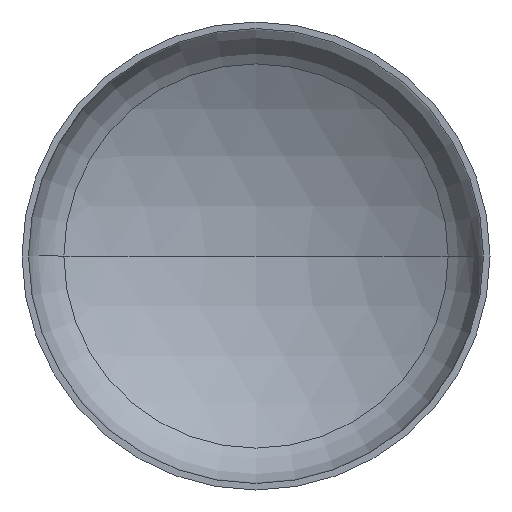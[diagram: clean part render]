
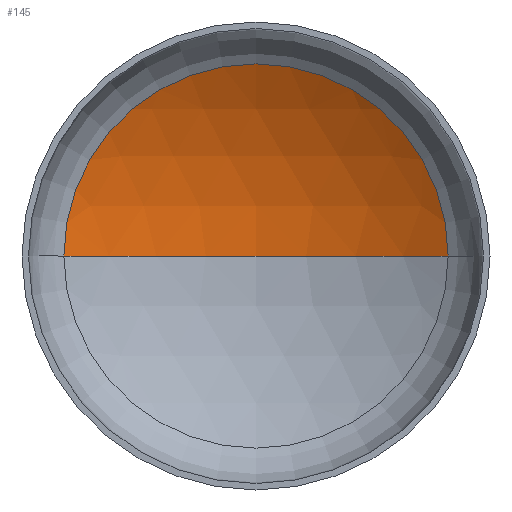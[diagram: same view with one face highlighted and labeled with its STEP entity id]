
A CAD part, front view. The second image highlights one B-rep face of the part: STEP entity #145.
In plain terms, the highlighted spherical face has radius 800 mm.
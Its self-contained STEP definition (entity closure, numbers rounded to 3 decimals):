
#5 = DIRECTION ( 'NONE',  ( 0., 0., -1. ) ) ;
#13 = EDGE_LOOP ( 'NONE', ( #402, #144, #104 ) ) ;
#26 = CARTESIAN_POINT ( 'NONE',  ( 0., -508.592, 0. ) ) ;
#27 = VERTEX_POINT ( 'NONE', #367 ) ;
#35 = AXIS2_PLACEMENT_3D ( 'NONE', #26, #193, #224 ) ;
#41 = DIRECTION ( 'NONE',  ( 1., 0., 0. ) ) ;
#45 = AXIS2_PLACEMENT_3D ( 'NONE', #191, #332, #359 ) ;
#46 = AXIS2_PLACEMENT_3D ( 'NONE', #357, #5, #72 ) ;
#48 = AXIS2_PLACEMENT_3D ( 'NONE', #203, #261, #41 ) ;
#55 = VERTEX_POINT ( 'NONE', #295 ) ;
#72 = DIRECTION ( 'NONE',  ( -1., 0., 0. ) ) ;
#95 = VERTEX_POINT ( 'NONE', #247 ) ;
#104 = ORIENTED_EDGE ( 'NONE', *, *, #109, .T. ) ;
#109 = EDGE_CURVE ( 'NONE', #27, #55, #274, .T. ) ;
#115 = EDGE_CURVE ( 'NONE', #95, #27, #321, .T. ) ;
#135 = EDGE_CURVE ( 'NONE', #95, #55, #380, .T. ) ;
#144 = ORIENTED_EDGE ( 'NONE', *, *, #115, .T. ) ;
#145 = ADVANCED_FACE ( 'NONE', ( #200 ), #373, .F. ) ;
#191 = CARTESIAN_POINT ( 'NONE',  ( 0., -508.592, 0. ) ) ;
#193 = DIRECTION ( 'NONE',  ( 0., 0., -1. ) ) ;
#200 = FACE_OUTER_BOUND ( 'NONE', #13, .T. ) ;
#203 = CARTESIAN_POINT ( 'NONE',  ( 0., 178.034, 0. ) ) ;
#224 = DIRECTION ( 'NONE',  ( -1., 0., 0. ) ) ;
#247 = CARTESIAN_POINT ( 'NONE',  ( 0., 291.408, 0. ) ) ;
#261 = DIRECTION ( 'NONE',  ( 0., -1., 0. ) ) ;
#274 = CIRCLE ( 'NONE', #48, 410.543 ) ;
#295 = CARTESIAN_POINT ( 'NONE',  ( -410.543, 178.034, 0. ) ) ;
#321 = CIRCLE ( 'NONE', #46, 800. ) ;
#332 = DIRECTION ( 'NONE',  ( 0., 0., 1. ) ) ;
#357 = CARTESIAN_POINT ( 'NONE',  ( 0., -508.592, 0. ) ) ;
#359 = DIRECTION ( 'NONE',  ( 1., 0., 0. ) ) ;
#367 = CARTESIAN_POINT ( 'NONE',  ( 410.543, 178.034, 0. ) ) ;
#373 = SPHERICAL_SURFACE ( 'NONE', #35, 800. ) ;
#380 = CIRCLE ( 'NONE', #45, 800. ) ;
#402 = ORIENTED_EDGE ( 'NONE', *, *, #135, .F. ) ;
